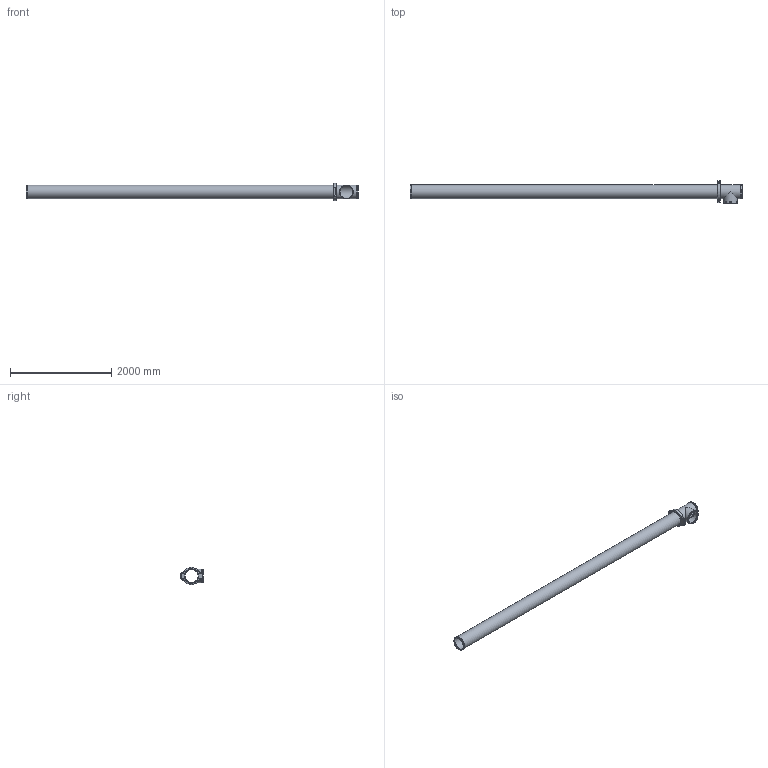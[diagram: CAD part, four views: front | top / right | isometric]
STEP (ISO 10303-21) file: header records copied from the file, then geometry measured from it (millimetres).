
FILE_DESCRIPTION(/* description */ ('VIC LONG RUN FITTING No R22 (OGS)','CAx-IF Rec.Pracs.---Representation and Presentation of Product Manufacturing Information (PMI)---4.0---2014-10-13'),/* implementation_level */ '2;1');
FILE_NAME(/* name */ 'C:\Users\Vjadhav\AppData\Roaming\Autodesk\ApplicationPlugins\Back Up\Victaulic_IPS_Long Run Fittings_No R22 (OGS)\Victaulic_IPS_Long Run Fittings_No R22 (OGS)_10 (250).stp',/* time_stamp */ '2020-10-14T10:38:07+05:00',/* author */ ('Vjadhav'),/* organization */ ('Victaulic'),/* preprocessor_version */ 'ST-DEVELOPER v17.2',/* originating_system */ 'Autodesk Inventor 2019',/* authorisation */ '');
FILE_SCHEMA (('AP242_MANAGED_MODEL_BASED_3D_ENGINEERING_MIM_LF { 1 0 10303 442 1 1 4 }'));
Length unit declared in the file: inch
Products named in the file (4): R22-10.0; 020-10.0; Pipe_R10-10.0; 077-10.0
Assembly tree (3 placements, depth 2):
  R22-10.0
    020-10.0
    Pipe_R10-10.0
    077-10.0
Bounding box: 6556.5 x 446.15 x 344.9 mm (x, y, z)
Volume: 53620698.5 mm3; surface area: 11299298 mm2
Topology: 3 solids, 5 shells, 92 faces, 223 edges, 160 vertices
Faces by surface type: plane 51, cylinder 35, cone 4, bspline 2
Full cylindrical faces by diameter (mm): 25.4 x4, 27.432 x2, 254.508 x3, 264.16 x1, 268.275 x5, 273.05 x10
Entity records: 3250 total; most frequent: CARTESIAN_POINT 706, DIRECTION 507, ORIENTED_EDGE 446, EDGE_CURVE 223, AXIS2_PLACEMENT_3D 207, VERTEX_POINT 160, EDGE_LOOP 123, CIRCLE 104
